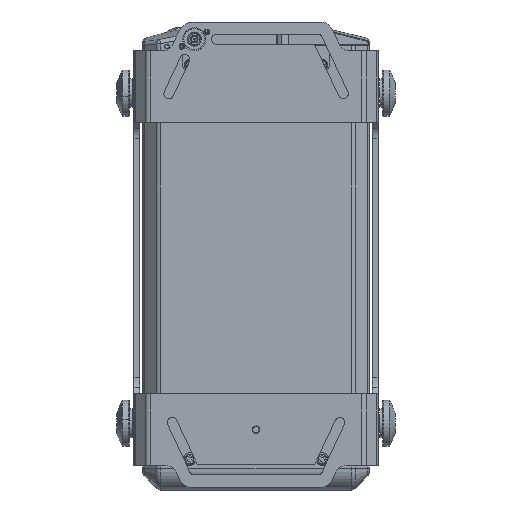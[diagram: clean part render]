
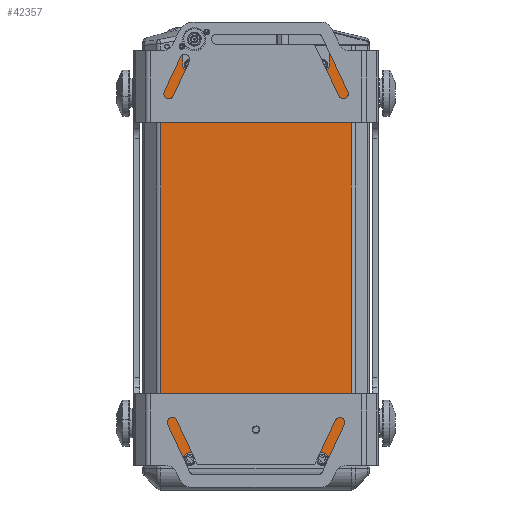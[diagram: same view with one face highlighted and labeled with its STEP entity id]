
A CAD part, front view. The second image highlights one B-rep face of the part: STEP entity #42357.
In plain terms, the highlighted planar face has unit normal (0, -1, 0).
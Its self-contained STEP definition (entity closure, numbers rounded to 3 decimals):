
#92 = CARTESIAN_POINT ( 'NONE',  ( 12.394, -132.617, 183.765 ) ) ;
#535 = ORIENTED_EDGE ( 'NONE', *, *, #17205, .F. ) ;
#970 = CIRCLE ( 'NONE', #36788, 5. ) ;
#1020 = VERTEX_POINT ( 'NONE', #43484 ) ;
#1029 = CARTESIAN_POINT ( 'NONE',  ( 129.737, -132.617, 172.765 ) ) ;
#1652 = LINE ( 'NONE', #15115, #12025 ) ;
#1917 = EDGE_CURVE ( 'NONE', #22366, #38077, #10101, .T. ) ;
#2253 = ORIENTED_EDGE ( 'NONE', *, *, #23411, .F. ) ;
#3232 = CARTESIAN_POINT ( 'NONE',  ( 114.394, -132.617, 187.765 ) ) ;
#4385 = LINE ( 'NONE', #4602, #19702 ) ;
#4449 = ORIENTED_EDGE ( 'NONE', *, *, #25038, .T. ) ;
#4602 = CARTESIAN_POINT ( 'NONE',  ( 17.394, -132.617, 192.765 ) ) ;
#5036 = EDGE_CURVE ( 'NONE', #32462, #25168, #41356, .T. ) ;
#5220 = VERTEX_POINT ( 'NONE', #17576 ) ;
#5937 = CARTESIAN_POINT ( 'NONE',  ( 129.737, -132.617, 472.765 ) ) ;
#5958 = EDGE_LOOP ( 'NONE', ( #7968, #14411, #32447, #17602, #535, #13277, #9901, #33032, #32154, #19664, #4449, #35910, #7308, #41706, #2253, #14761 ) ) ;
#6315 = DIRECTION ( 'NONE',  ( 0., -1., 0. ) ) ;
#7207 = LINE ( 'NONE', #1029, #27382 ) ;
#7308 = ORIENTED_EDGE ( 'NONE', *, *, #34984, .F. ) ;
#7869 = CARTESIAN_POINT ( 'NONE',  ( 17.394, -132.617, 187.765 ) ) ;
#7968 = ORIENTED_EDGE ( 'NONE', *, *, #20400, .F. ) ;
#7975 = DIRECTION ( 'NONE',  ( 0., -1., 0. ) ) ;
#7999 = CARTESIAN_POINT ( 'NONE',  ( 12.394, -132.617, 187.765 ) ) ;
#8913 = DIRECTION ( 'NONE',  ( -1., 0., 0. ) ) ;
#8958 = VERTEX_POINT ( 'NONE', #9398 ) ;
#9398 = CARTESIAN_POINT ( 'NONE',  ( 129.737, -132.617, 183.765 ) ) ;
#9901 = ORIENTED_EDGE ( 'NONE', *, *, #23224, .F. ) ;
#9966 = CARTESIAN_POINT ( 'NONE',  ( 17.394, -132.617, 457.765 ) ) ;
#10101 = CIRCLE ( 'NONE', #26277, 5. ) ;
#10669 = EDGE_CURVE ( 'NONE', #13141, #21449, #13633, .T. ) ;
#10891 = VERTEX_POINT ( 'NONE', #20466 ) ;
#10983 = VERTEX_POINT ( 'NONE', #43586 ) ;
#11188 = CARTESIAN_POINT ( 'NONE',  ( 114.394, -132.617, 187.765 ) ) ;
#11218 = CARTESIAN_POINT ( 'NONE',  ( -4.606, -132.617, 472.765 ) ) ;
#11420 = DIRECTION ( 'NONE',  ( 0., 0., 1. ) ) ;
#12008 = VECTOR ( 'NONE', #36541, 1000. ) ;
#12025 = VECTOR ( 'NONE', #17199, 1000. ) ;
#13141 = VERTEX_POINT ( 'NONE', #33538 ) ;
#13277 = ORIENTED_EDGE ( 'NONE', *, *, #10669, .F. ) ;
#13633 = CIRCLE ( 'NONE', #21321, 5. ) ;
#14411 = ORIENTED_EDGE ( 'NONE', *, *, #22619, .F. ) ;
#14761 = ORIENTED_EDGE ( 'NONE', *, *, #17047, .F. ) ;
#14773 = DIRECTION ( 'NONE',  ( 1., 0., 0. ) ) ;
#15115 = CARTESIAN_POINT ( 'NONE',  ( 12.394, -132.617, 183.765 ) ) ;
#15154 = DIRECTION ( 'NONE',  ( -1., 0., 0. ) ) ;
#16519 = VERTEX_POINT ( 'NONE', #24833 ) ;
#16714 = CARTESIAN_POINT ( 'NONE',  ( 12.394, -132.617, 462.765 ) ) ;
#16875 = CARTESIAN_POINT ( 'NONE',  ( -15.606, -132.617, 183.765 ) ) ;
#17025 = CARTESIAN_POINT ( 'NONE',  ( 109.394, -132.617, 462.765 ) ) ;
#17047 = EDGE_CURVE ( 'NONE', #41166, #1020, #17549, .T. ) ;
#17060 = LINE ( 'NONE', #27177, #42230 ) ;
#17199 = DIRECTION ( 'NONE',  ( 0., 0., -1. ) ) ;
#17205 = EDGE_CURVE ( 'NONE', #21449, #32462, #19181, .T. ) ;
#17549 = CIRCLE ( 'NONE', #32282, 5. ) ;
#17576 = CARTESIAN_POINT ( 'NONE',  ( 12.394, -132.617, 472.765 ) ) ;
#17602 = ORIENTED_EDGE ( 'NONE', *, *, #5036, .F. ) ;
#18191 = VECTOR ( 'NONE', #32581, 1000. ) ;
#19138 = DIRECTION ( 'NONE',  ( 1., 0., 0. ) ) ;
#19181 = LINE ( 'NONE', #32367, #18191 ) ;
#19212 = LINE ( 'NONE', #32611, #12008 ) ;
#19336 = CARTESIAN_POINT ( 'NONE',  ( -2.949, -132.617, 172.765 ) ) ;
#19500 = DIRECTION ( 'NONE',  ( -1., 0., 0. ) ) ;
#19664 = ORIENTED_EDGE ( 'NONE', *, *, #27075, .F. ) ;
#19702 = VECTOR ( 'NONE', #8913, 1000. ) ;
#20373 = FACE_OUTER_BOUND ( 'NONE', #5958, .T. ) ;
#20400 = EDGE_CURVE ( 'NONE', #10891, #41166, #21088, .T. ) ;
#20466 = CARTESIAN_POINT ( 'NONE',  ( 114.394, -132.617, 183.765 ) ) ;
#21088 = LINE ( 'NONE', #11188, #35331 ) ;
#21321 = AXIS2_PLACEMENT_3D ( 'NONE', #17025, #40748, #30422 ) ;
#21449 = VERTEX_POINT ( 'NONE', #26811 ) ;
#22366 = VERTEX_POINT ( 'NONE', #16714 ) ;
#22619 = EDGE_CURVE ( 'NONE', #8958, #10891, #26110, .T. ) ;
#22660 = CARTESIAN_POINT ( 'NONE',  ( 114.394, -132.617, 472.765 ) ) ;
#23029 = LINE ( 'NONE', #42641, #25944 ) ;
#23224 = EDGE_CURVE ( 'NONE', #38077, #13141, #19212, .T. ) ;
#23411 = EDGE_CURVE ( 'NONE', #1020, #40442, #4385, .T. ) ;
#23678 = EDGE_CURVE ( 'NONE', #8958, #25168, #7207, .T. ) ;
#23690 = CARTESIAN_POINT ( 'NONE',  ( -4.606, -132.617, 172.765 ) ) ;
#23698 = VECTOR ( 'NONE', #38527, 1000. ) ;
#24833 = CARTESIAN_POINT ( 'NONE',  ( -2.949, -132.617, 472.765 ) ) ;
#24944 = AXIS2_PLACEMENT_3D ( 'NONE', #23690, #6315, #34439 ) ;
#25038 = EDGE_CURVE ( 'NONE', #16519, #10983, #32946, .T. ) ;
#25158 = LINE ( 'NONE', #27828, #23698 ) ;
#25168 = VERTEX_POINT ( 'NONE', #5937 ) ;
#25333 = DIRECTION ( 'NONE',  ( -1., 0., 0. ) ) ;
#25944 = VECTOR ( 'NONE', #35987, 1000. ) ;
#26110 = LINE ( 'NONE', #16875, #29451 ) ;
#26277 = AXIS2_PLACEMENT_3D ( 'NONE', #41362, #31476, #19138 ) ;
#26811 = CARTESIAN_POINT ( 'NONE',  ( 114.394, -132.617, 462.765 ) ) ;
#27072 = VECTOR ( 'NONE', #14773, 1000. ) ;
#27075 = EDGE_CURVE ( 'NONE', #16519, #5220, #23029, .T. ) ;
#27177 = CARTESIAN_POINT ( 'NONE',  ( -15.606, -132.617, 183.765 ) ) ;
#27382 = VECTOR ( 'NONE', #31409, 1000. ) ;
#27828 = CARTESIAN_POINT ( 'NONE',  ( 12.394, -132.617, 462.765 ) ) ;
#29451 = VECTOR ( 'NONE', #19500, 1000. ) ;
#29498 = VERTEX_POINT ( 'NONE', #7999 ) ;
#30422 = DIRECTION ( 'NONE',  ( 1., 0., 0. ) ) ;
#31409 = DIRECTION ( 'NONE',  ( 0., 0., 1. ) ) ;
#31476 = DIRECTION ( 'NONE',  ( 0., -1., 0. ) ) ;
#32085 = EDGE_CURVE ( 'NONE', #5220, #22366, #25158, .T. ) ;
#32154 = ORIENTED_EDGE ( 'NONE', *, *, #32085, .F. ) ;
#32282 = AXIS2_PLACEMENT_3D ( 'NONE', #42065, #7975, #25333 ) ;
#32367 = CARTESIAN_POINT ( 'NONE',  ( 114.394, -132.617, 472.765 ) ) ;
#32447 = ORIENTED_EDGE ( 'NONE', *, *, #23678, .T. ) ;
#32462 = VERTEX_POINT ( 'NONE', #22660 ) ;
#32532 = DIRECTION ( 'NONE',  ( 0., 0., -1. ) ) ;
#32581 = DIRECTION ( 'NONE',  ( 0., 0., 1. ) ) ;
#32611 = CARTESIAN_POINT ( 'NONE',  ( 109.394, -132.617, 457.765 ) ) ;
#32946 = LINE ( 'NONE', #19336, #34130 ) ;
#33032 = ORIENTED_EDGE ( 'NONE', *, *, #1917, .F. ) ;
#33538 = CARTESIAN_POINT ( 'NONE',  ( 109.394, -132.617, 457.765 ) ) ;
#34130 = VECTOR ( 'NONE', #32532, 1000. ) ;
#34439 = DIRECTION ( 'NONE',  ( 1., 0., 0. ) ) ;
#34984 = EDGE_CURVE ( 'NONE', #29498, #37178, #1652, .T. ) ;
#35331 = VECTOR ( 'NONE', #11420, 1000. ) ;
#35910 = ORIENTED_EDGE ( 'NONE', *, *, #38688, .F. ) ;
#35987 = DIRECTION ( 'NONE',  ( 1., 0., 0. ) ) ;
#36425 = PLANE ( 'NONE',  #24944 ) ;
#36541 = DIRECTION ( 'NONE',  ( 1., 0., 0. ) ) ;
#36788 = AXIS2_PLACEMENT_3D ( 'NONE', #7869, #41743, #15154 ) ;
#36919 = EDGE_CURVE ( 'NONE', #40442, #29498, #970, .T. ) ;
#37037 = DIRECTION ( 'NONE',  ( -1., 0., 0. ) ) ;
#37178 = VERTEX_POINT ( 'NONE', #92 ) ;
#37695 = CARTESIAN_POINT ( 'NONE',  ( 17.394, -132.617, 192.765 ) ) ;
#38077 = VERTEX_POINT ( 'NONE', #9966 ) ;
#38527 = DIRECTION ( 'NONE',  ( 0., 0., -1. ) ) ;
#38688 = EDGE_CURVE ( 'NONE', #37178, #10983, #17060, .T. ) ;
#40442 = VERTEX_POINT ( 'NONE', #37695 ) ;
#40748 = DIRECTION ( 'NONE',  ( 0., -1., 0. ) ) ;
#41166 = VERTEX_POINT ( 'NONE', #3232 ) ;
#41356 = LINE ( 'NONE', #11218, #27072 ) ;
#41362 = CARTESIAN_POINT ( 'NONE',  ( 17.394, -132.617, 462.765 ) ) ;
#41706 = ORIENTED_EDGE ( 'NONE', *, *, #36919, .F. ) ;
#41743 = DIRECTION ( 'NONE',  ( 0., -1., 0. ) ) ;
#42065 = CARTESIAN_POINT ( 'NONE',  ( 109.394, -132.617, 187.765 ) ) ;
#42230 = VECTOR ( 'NONE', #37037, 1000. ) ;
#42357 = ADVANCED_FACE ( 'NONE', ( #20373 ), #36425, .T. ) ;
#42641 = CARTESIAN_POINT ( 'NONE',  ( -4.606, -132.617, 472.765 ) ) ;
#43484 = CARTESIAN_POINT ( 'NONE',  ( 109.394, -132.617, 192.765 ) ) ;
#43586 = CARTESIAN_POINT ( 'NONE',  ( -2.949, -132.617, 183.765 ) ) ;
